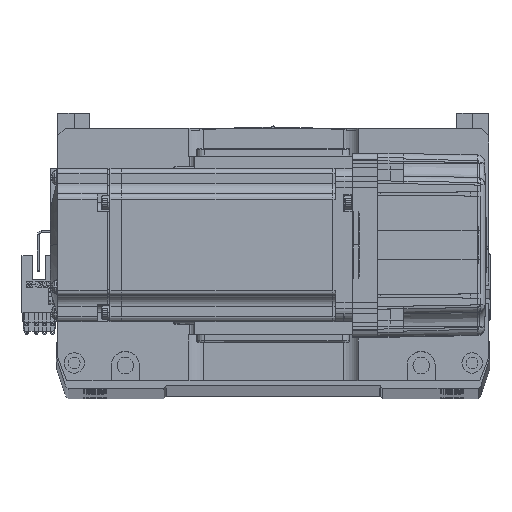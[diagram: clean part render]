
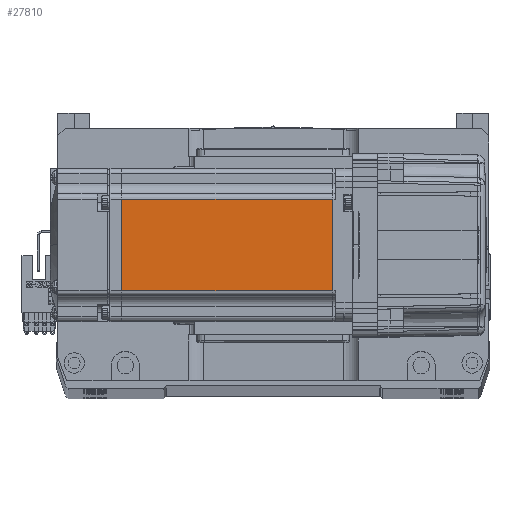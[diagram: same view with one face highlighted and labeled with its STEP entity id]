
A CAD part, top view. The second image highlights one B-rep face of the part: STEP entity #27810.
In plain terms, the highlighted planar face has unit normal (0, 0, 1).
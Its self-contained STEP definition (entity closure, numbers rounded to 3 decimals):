
#1708 = ORIENTED_EDGE ( 'NONE', *, *, #60667, .F. ) ;
#4223 = EDGE_CURVE ( 'NONE', #63280, #55719, #35161, .T. ) ;
#5141 = VECTOR ( 'NONE', #67039, 1000. ) ;
#8254 = CARTESIAN_POINT ( 'NONE',  ( -6.5, -25., 30. ) ) ;
#8615 = CARTESIAN_POINT ( 'NONE',  ( -7.75, -18., 30. ) ) ;
#9466 = VECTOR ( 'NONE', #67355, 1000. ) ;
#10978 = CARTESIAN_POINT ( 'NONE',  ( -90.45, 18., 30. ) ) ;
#15888 = EDGE_CURVE ( 'NONE', #56041, #34345, #29373, .T. ) ;
#16122 = VECTOR ( 'NONE', #36817, 1000. ) ;
#16468 = DIRECTION ( 'NONE',  ( -1., 0., 0. ) ) ;
#19141 = ORIENTED_EDGE ( 'NONE', *, *, #15888, .T. ) ;
#21117 = VECTOR ( 'NONE', #16468, 1000. ) ;
#23091 = CARTESIAN_POINT ( 'NONE',  ( -7.75, 18., 30. ) ) ;
#27810 = ADVANCED_FACE ( 'NONE', ( #67759 ), #34617, .T. ) ;
#29373 = LINE ( 'NONE', #58549, #21117 ) ;
#32621 = LINE ( 'NONE', #51490, #9466 ) ;
#34345 = VERTEX_POINT ( 'NONE', #10978 ) ;
#34617 = PLANE ( 'NONE',  #66036 ) ;
#35066 = DIRECTION ( 'NONE',  ( 1., 0., 0. ) ) ;
#35161 = LINE ( 'NONE', #57442, #16122 ) ;
#35647 = CARTESIAN_POINT ( 'NONE',  ( -90.45, -18., 30. ) ) ;
#36817 = DIRECTION ( 'NONE',  ( -1., 0., 0. ) ) ;
#37012 = ORIENTED_EDGE ( 'NONE', *, *, #43952, .T. ) ;
#43276 = LINE ( 'NONE', #45857, #5141 ) ;
#43952 = EDGE_CURVE ( 'NONE', #34345, #55719, #32621, .T. ) ;
#45291 = DIRECTION ( 'NONE',  ( 0., 0., 1. ) ) ;
#45857 = CARTESIAN_POINT ( 'NONE',  ( -7.75, 0., 30. ) ) ;
#50064 = ORIENTED_EDGE ( 'NONE', *, *, #4223, .F. ) ;
#51490 = CARTESIAN_POINT ( 'NONE',  ( -90.45, 0., 30. ) ) ;
#55719 = VERTEX_POINT ( 'NONE', #35647 ) ;
#56041 = VERTEX_POINT ( 'NONE', #23091 ) ;
#57442 = CARTESIAN_POINT ( 'NONE',  ( -6.5, -18., 30. ) ) ;
#58549 = CARTESIAN_POINT ( 'NONE',  ( -6.5, 18., 30. ) ) ;
#59829 = EDGE_LOOP ( 'NONE', ( #1708, #19141, #37012, #50064 ) ) ;
#60667 = EDGE_CURVE ( 'NONE', #56041, #63280, #43276, .T. ) ;
#63280 = VERTEX_POINT ( 'NONE', #8615 ) ;
#66036 = AXIS2_PLACEMENT_3D ( 'NONE', #8254, #45291, #35066 ) ;
#67039 = DIRECTION ( 'NONE',  ( 0., -1., 0. ) ) ;
#67355 = DIRECTION ( 'NONE',  ( 0., -1., 0. ) ) ;
#67759 = FACE_OUTER_BOUND ( 'NONE', #59829, .T. ) ;
